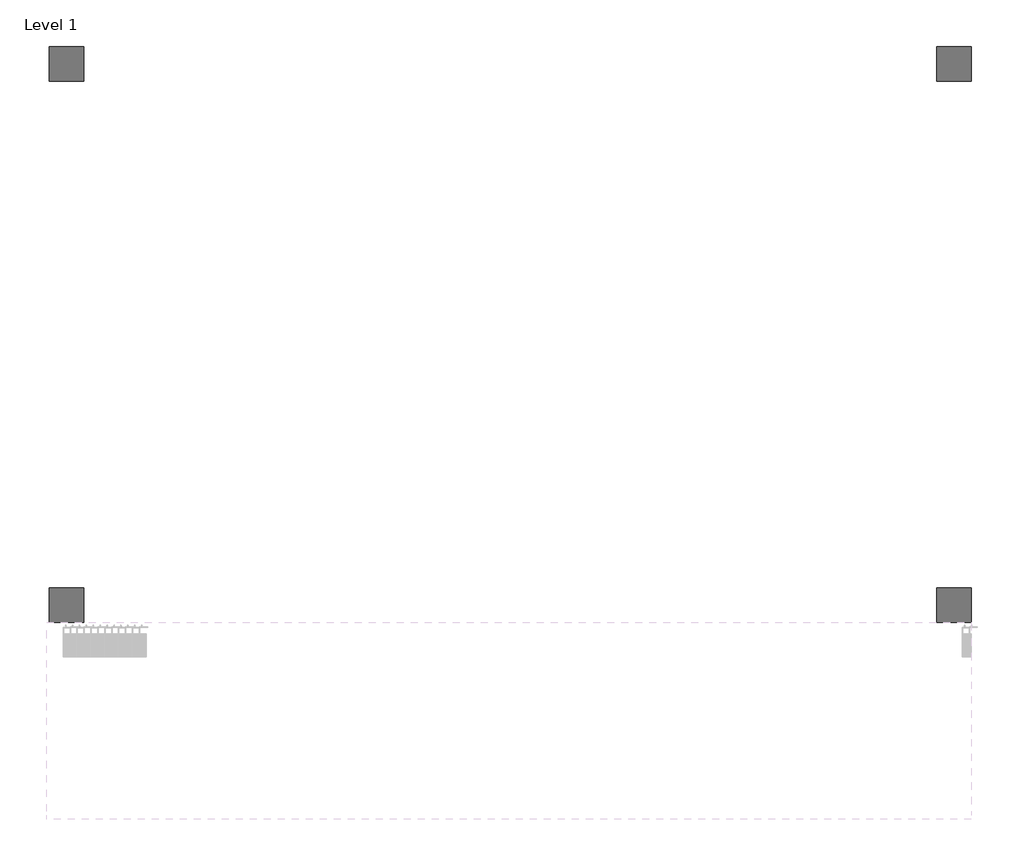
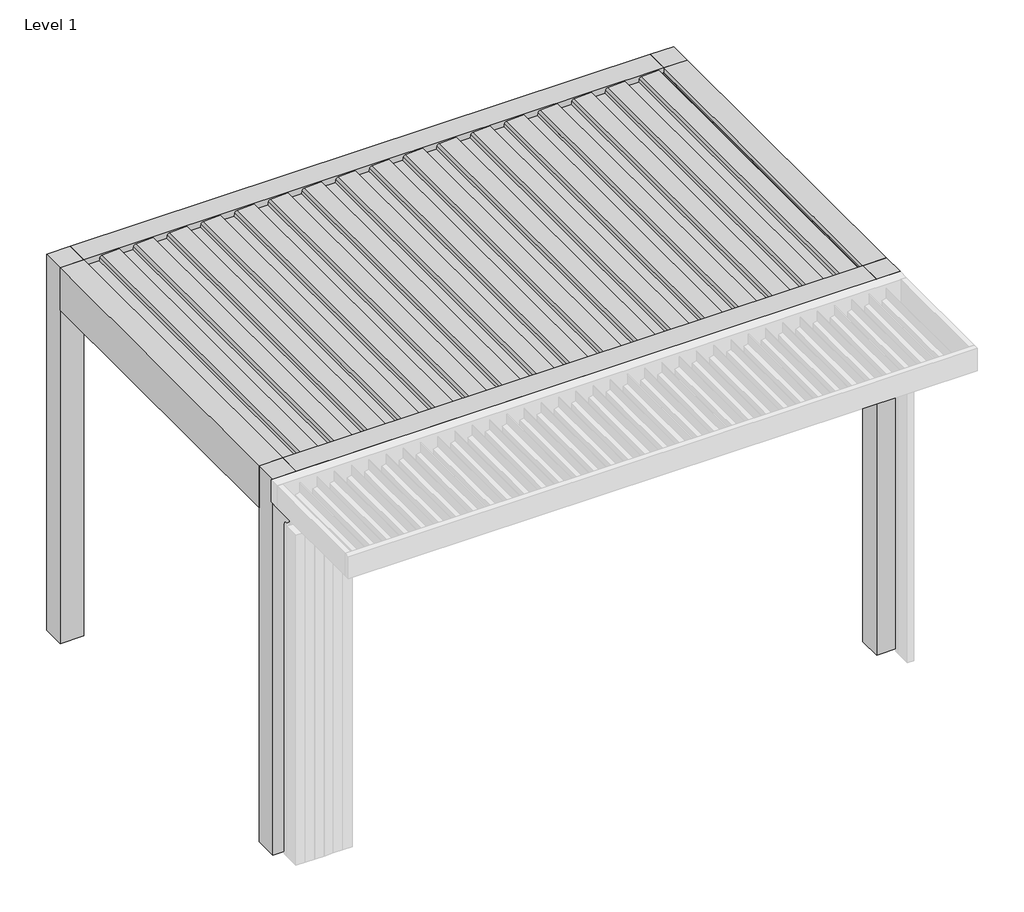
# One storey, part 35 of 80: 1 proxy.
"""IFC4 building model written with IfcOpenShell, lengths in millimetres."""

from ifc_helpers import new_model, si_unit, point, frame, frame_2d, origin, origin_with_axes, place, context, project, spatial, polyline, circle_curve, trimmed, segment, composite_curve, outline, extrude, element, save

model = new_model("IFC4")

# Units and contexts
model_context = context("Model", 3, world=origin())
ifc_project = project(units=[si_unit("LENGTHUNIT", "METRE", prefix="MILLI")], contexts=[model_context])

# Site, building, storey
site = spatial("IfcSite", under=ifc_project)
building = spatial("IfcBuilding", under=site)
storey = spatial("IfcBuildingStorey", under=building, Name="Level 1", Elevation=0.0)

# Proxy
placement = place(None, origin())
element("IfcBuildingElementProxy", 1, Name="Renson_Amani_Patio_Cover : Renson_Amani_Patio_Cover", ObjectType="Renson_Amani_Patio_Cover : Renson_Amani_Patio_Cover", at=placement, inside=storey, context=model_context, shape_type="SweptSolid", body=[
    extrude(outline(polyline([(-18327.8406315, 2535.0), (-18327.8406315, 2322.0), (-18257.8406316, 2322.0), (-18257.8406316, 2250.0), (-18477.8406315, 2250.0), (-18477.8406315, 2535.0), (-18327.8406315, 2535.0)])), frame((402125.5749426, 0.0, 0.0), z_axis=(1.0, 0.0, 0.0), x_axis=(0.0, 1.0, 0.0)), (0.0, 0.0, 1.0), 3700.0),
    extrude(outline(polyline([(-15977.8406315, 2250.0), (-16197.8406314, 2250.0), (-16197.8406314, 2322.0), (-16127.8406315, 2322.0), (-16127.8406315, 2535.0), (-15977.8406315, 2535.0), (-15977.8406315, 2250.0)])), frame((402125.5749426, 0.0, 0.0), z_axis=(1.0, 0.0, 0.0), x_axis=(0.0, 1.0, 0.0)), (0.0, 0.0, 1.0), 3700.0),
    extrude(outline(polyline([(402125.5749426, -18327.8406315), (401975.5749426, -18327.8406315), (401975.5749426, -16127.8406315), (402125.5749426, -16127.8406315), (402125.5749426, -18327.8406315)])), frame((0.0, 0.0, 2250.0), z_axis=(0.0, 0.0, 1.0), x_axis=(1.0, 0.0, 0.0)), (0.0, 0.0, 1.0), 285.0),
    extrude(outline(polyline([(2535.0, 405975.5749426), (2535.0, 405825.5749426), (2504.6904658, 405825.5749426), (2504.2449277, 405820.5749426), (2496.400763, 405820.5749426), (2480.6555802, 405804.8293581), (2480.6555802, 405795.4839749), (2466.6559373, 405799.2352636), (2466.6559373, 405825.5749426), (2250.0, 405825.5749426), (2250.0, 405975.5749426), (2535.0, 405975.5749426)])), frame((0.0, -18327.8406315, 0.0), z_axis=(0.0, 1.0, 0.0), x_axis=(0.0, 0.0, 1.0)), (0.0, 0.0, 1.0), 2200.0),
    extrude(outline(polyline([(2466.6559373, 402125.5749426), (2466.6559373, 402151.5749426), (2480.6555802, 402155.3262313), (2480.6555802, 402145.9808481), (2496.400763, 402130.5749426), (2504.2449277, 402130.5749426), (2504.6823598, 402125.5749426), (2466.6559373, 402125.5749426)])), frame((0.0, -18327.8406315, 0.0), z_axis=(0.0, 1.0, 0.0), x_axis=(0.0, 0.0, 1.0)), (0.0, 0.0, 1.0), 2200.0),
    extrude(outline(polyline([(402125.5749426, -18327.8406315), (402125.5749426, -18477.8406315), (401975.5749426, -18477.8406315), (401975.5749426, -18327.8406315), (402125.5749426, -18327.8406315)])), origin_with_axes(), (0.0, 0.0, 1.0), 2535.0),
    extrude(outline(polyline([(402125.5749426, -16127.8406315), (401975.5749426, -16127.8406315), (401975.5749426, -15977.8406315), (402125.5749426, -15977.8406315), (402125.5749426, -16127.8406315)])), origin_with_axes(), (0.0, 0.0, 1.0), 2535.0),
    extrude(outline(polyline([(405975.5749426, -15977.8406315), (405975.5749426, -16127.8406315), (405825.5749426, -16127.8406315), (405825.5749426, -15977.8406315), (405975.5749426, -15977.8406315)])), origin_with_axes(), (0.0, 0.0, 1.0), 2535.0),
    extrude(outline(polyline([(405975.5749426, -18327.8406315), (405975.5749426, -18477.8406315), (405825.5749426, -18477.8406315), (405825.5749426, -18327.8406315), (405975.5749426, -18327.8406315)])), origin_with_axes(), (0.0, 0.0, 1.0), 2535.0),
    extrude(outline(composite_curve([segment(polyline([(2483.35, 402324.1467059), (2511.01198, 402326.5668156), (2512.3970364, 402355.4020661), (2531.8911096, 402351.964735), (2526.6075693, 402241.9676201)]), True, "CONTINUOUS"), segment(trimmed(circle_curve(frame_2d((2511.6248435, 402242.6872921)), 15.0), [point((2526.6075693, 402241.9676201))], [point((2514.2295662, 402227.9151758))], False, "CARTESIAN"), True, "CONTINUOUS"), segment(polyline([(2514.2295662, 402227.9151758), (2495.0, 402224.5244844), (2495.0, 402136.7887084), (2512.0788237, 402133.777251), (2511.3450182, 402118.5002805), (2483.35, 402116.0510338), (2483.35, 402324.1467059)]), True, "CONTINUOUS")], self_intersect=False)), frame((0.0, -18327.8406315, 0.0), z_axis=(0.0, 1.0, 0.0), x_axis=(0.0, 0.0, 1.0)), (0.0, 0.0, 1.0), 2200.0),
    extrude(outline(composite_curve([segment(polyline([(2483.35, 405764.3195824), (2511.01198, 405766.7396921), (2512.3970364, 405795.5749426), (2531.8911096, 405792.1376115), (2526.6075693, 405682.1404966)]), True, "CONTINUOUS"), segment(trimmed(circle_curve(frame_2d((2511.6248435, 405682.8601686)), 15.0), [point((2526.6075693, 405682.1404966))], [point((2514.2295662, 405668.0880523))], False, "CARTESIAN"), True, "CONTINUOUS"), segment(polyline([(2514.2295662, 405668.0880523), (2495.0, 405664.6973609), (2495.0, 405576.9615849), (2512.0788237, 405573.9501275), (2511.3450182, 405558.673157), (2483.35, 405556.2239103), (2483.35, 405764.3195824)]), True, "CONTINUOUS")], self_intersect=False)), frame((0.0, -18327.8406315, 0.0), z_axis=(0.0, 1.0, 0.0), x_axis=(0.0, 0.0, 1.0)), (0.0, 0.0, 1.0), 2200.0),
    extrude(outline(composite_curve([segment(polyline([(2483.35, 402539.1575107), (2511.01198, 402541.5776204), (2512.3970364, 402570.4128708), (2531.8911096, 402566.9755398), (2526.6075693, 402456.9784249)]), True, "CONTINUOUS"), segment(trimmed(circle_curve(frame_2d((2511.6248435, 402457.6980968)), 15.0), [point((2526.6075693, 402456.9784249))], [point((2514.2295662, 402442.9259805))], False, "CARTESIAN"), True, "CONTINUOUS"), segment(polyline([(2514.2295662, 402442.9259805), (2495.0, 402439.5352892), (2495.0, 402351.7995132), (2512.0788237, 402348.7880558), (2511.3450182, 402333.5110853), (2483.35, 402331.0618386), (2483.35, 402539.1575107)]), True, "CONTINUOUS")], self_intersect=False)), frame((0.0, -18327.8406315, 0.0), z_axis=(0.0, 1.0, 0.0), x_axis=(0.0, 0.0, 1.0)), (0.0, 0.0, 1.0), 2200.0),
    extrude(outline(composite_curve([segment(polyline([(2483.35, 402754.1683155), (2511.01198, 402756.5884252), (2512.3970364, 402785.4236756), (2531.8911096, 402781.9863445), (2526.6075693, 402671.9892297)]), True, "CONTINUOUS"), segment(trimmed(circle_curve(frame_2d((2511.6248435, 402672.7089016)), 15.0), [point((2526.6075693, 402671.9892297))], [point((2514.2295662, 402657.9367853))], False, "CARTESIAN"), True, "CONTINUOUS"), segment(polyline([(2514.2295662, 402657.9367853), (2495.0, 402654.546094), (2495.0, 402566.810318), (2512.0788237, 402563.7988605), (2511.3450182, 402548.5218901), (2483.35, 402546.0726433), (2483.35, 402754.1683155)]), True, "CONTINUOUS")], self_intersect=False)), frame((0.0, -18327.8406315, 0.0), z_axis=(0.0, 1.0, 0.0), x_axis=(0.0, 0.0, 1.0)), (0.0, 0.0, 1.0), 2200.0),
    extrude(outline(composite_curve([segment(polyline([(2483.35, 402969.1791203), (2511.01198, 402971.5992299), (2512.3970364, 403000.4344804), (2531.8911096, 402996.9971493), (2526.6075693, 402887.0000345)]), True, "CONTINUOUS"), segment(trimmed(circle_curve(frame_2d((2511.6248435, 402887.7197064)), 15.0), [point((2526.6075693, 402887.0000345))], [point((2514.2295662, 402872.9475901))], False, "CARTESIAN"), True, "CONTINUOUS"), segment(polyline([(2514.2295662, 402872.9475901), (2495.0, 402869.5568988), (2495.0, 402781.8211227), (2512.0788237, 402778.8096653), (2511.3450182, 402763.5326948), (2483.35, 402761.0834481), (2483.35, 402969.1791203)]), True, "CONTINUOUS")], self_intersect=False)), frame((0.0, -18327.8406315, 0.0), z_axis=(0.0, 1.0, 0.0), x_axis=(0.0, 0.0, 1.0)), (0.0, 0.0, 1.0), 2200.0),
    extrude(outline(composite_curve([segment(polyline([(2483.35, 403184.1899251), (2511.01198, 403186.6100347), (2512.3970364, 403215.4452852), (2531.8911096, 403212.0079541), (2526.6075693, 403102.0108393)]), True, "CONTINUOUS"), segment(trimmed(circle_curve(frame_2d((2511.6248435, 403102.7305112)), 15.0), [point((2526.6075693, 403102.0108393))], [point((2514.2295662, 403087.9583949))], False, "CARTESIAN"), True, "CONTINUOUS"), segment(polyline([(2514.2295662, 403087.9583949), (2495.0, 403084.5677035), (2495.0, 402996.8319275), (2512.0788237, 402993.8204701), (2511.3450182, 402978.5434996), (2483.35, 402976.0942529), (2483.35, 403184.1899251)]), True, "CONTINUOUS")], self_intersect=False)), frame((0.0, -18327.8406315, 0.0), z_axis=(0.0, 1.0, 0.0), x_axis=(0.0, 0.0, 1.0)), (0.0, 0.0, 1.0), 2200.0),
    extrude(outline(composite_curve([segment(polyline([(2483.35, 403399.2007298), (2511.01198, 403401.6208395), (2512.3970364, 403430.45609), (2531.8911096, 403427.0187589), (2526.6075693, 403317.021644)]), True, "CONTINUOUS"), segment(trimmed(circle_curve(frame_2d((2511.6248435, 403317.741316)), 15.0), [point((2526.6075693, 403317.021644))], [point((2514.2295662, 403302.9691997))], False, "CARTESIAN"), True, "CONTINUOUS"), segment(polyline([(2514.2295662, 403302.9691997), (2495.0, 403299.5785083), (2495.0, 403211.8427323), (2512.0788237, 403208.8312749), (2511.3450182, 403193.5543044), (2483.35, 403191.1050577), (2483.35, 403399.2007298)]), True, "CONTINUOUS")], self_intersect=False)), frame((0.0, -18327.8406315, 0.0), z_axis=(0.0, 1.0, 0.0), x_axis=(0.0, 0.0, 1.0)), (0.0, 0.0, 1.0), 2200.0),
    extrude(outline(composite_curve([segment(polyline([(2483.35, 403614.2115346), (2511.01198, 403616.6316443), (2512.3970364, 403645.4668947), (2531.8911096, 403642.0295637), (2526.6075693, 403532.0324488)]), True, "CONTINUOUS"), segment(trimmed(circle_curve(frame_2d((2511.6248435, 403532.7521207)), 15.0), [point((2526.6075693, 403532.0324488))], [point((2514.2295662, 403517.9800045))], False, "CARTESIAN"), True, "CONTINUOUS"), segment(polyline([(2514.2295662, 403517.9800045), (2495.0, 403514.5893131), (2495.0, 403426.8535371), (2512.0788237, 403423.8420797), (2511.3450182, 403408.5651092), (2483.35, 403406.1158625), (2483.35, 403614.2115346)]), True, "CONTINUOUS")], self_intersect=False)), frame((0.0, -18327.8406315, 0.0), z_axis=(0.0, 1.0, 0.0), x_axis=(0.0, 0.0, 1.0)), (0.0, 0.0, 1.0), 2200.0),
    extrude(outline(composite_curve([segment(polyline([(2483.35, 403829.2223394), (2511.01198, 403831.6424491), (2512.3970364, 403860.4776995), (2531.8911096, 403857.0403684), (2526.6075693, 403747.0432536)]), True, "CONTINUOUS"), segment(trimmed(circle_curve(frame_2d((2511.6248435, 403747.7629255)), 15.0), [point((2526.6075693, 403747.0432536))], [point((2514.2295662, 403732.9908092))], False, "CARTESIAN"), True, "CONTINUOUS"), segment(polyline([(2514.2295662, 403732.9908092), (2495.0, 403729.6001179), (2495.0, 403641.8643419), (2512.0788237, 403638.8528844), (2511.3450182, 403623.575914), (2483.35, 403621.1266672), (2483.35, 403829.2223394)]), True, "CONTINUOUS")], self_intersect=False)), frame((0.0, -18327.8406315, 0.0), z_axis=(0.0, 1.0, 0.0), x_axis=(0.0, 0.0, 1.0)), (0.0, 0.0, 1.0), 2200.0),
    extrude(outline(composite_curve([segment(polyline([(2483.35, 404044.2331442), (2511.01198, 404046.6532538), (2512.3970364, 404075.4885043), (2531.8911096, 404072.0511732), (2526.6075693, 403962.0540584)]), True, "CONTINUOUS"), segment(trimmed(circle_curve(frame_2d((2511.6248435, 403962.7737303)), 15.0), [point((2526.6075693, 403962.0540584))], [point((2514.2295662, 403948.001614))], False, "CARTESIAN"), True, "CONTINUOUS"), segment(polyline([(2514.2295662, 403948.001614), (2495.0, 403944.6109227), (2495.0, 403856.8751466), (2512.0788237, 403853.8636892), (2511.3450182, 403838.5867188), (2483.35, 403836.137472), (2483.35, 404044.2331442)]), True, "CONTINUOUS")], self_intersect=False)), frame((0.0, -18327.8406315, 0.0), z_axis=(0.0, 1.0, 0.0), x_axis=(0.0, 0.0, 1.0)), (0.0, 0.0, 1.0), 2200.0),
    extrude(outline(composite_curve([segment(polyline([(2483.35, 404259.243949), (2511.01198, 404261.6640586), (2512.3970364, 404290.4993091), (2531.8911096, 404287.061978), (2526.6075693, 404177.0648632)]), True, "CONTINUOUS"), segment(trimmed(circle_curve(frame_2d((2511.6248435, 404177.7845351)), 15.0), [point((2526.6075693, 404177.0648632))], [point((2514.2295662, 404163.0124188))], False, "CARTESIAN"), True, "CONTINUOUS"), segment(polyline([(2514.2295662, 404163.0124188), (2495.0, 404159.6217275), (2495.0, 404071.8859514), (2512.0788237, 404068.874494), (2511.3450182, 404053.5975235), (2483.35, 404051.1482768), (2483.35, 404259.243949)]), True, "CONTINUOUS")], self_intersect=False)), frame((0.0, -18327.8406315, 0.0), z_axis=(0.0, 1.0, 0.0), x_axis=(0.0, 0.0, 1.0)), (0.0, 0.0, 1.0), 2200.0),
    extrude(outline(composite_curve([segment(polyline([(2483.35, 404474.2547538), (2511.01198, 404476.6748634), (2512.3970364, 404505.5101139), (2531.8911096, 404502.0727828), (2526.6075693, 404392.0756679)]), True, "CONTINUOUS"), segment(trimmed(circle_curve(frame_2d((2511.6248435, 404392.7953399)), 15.0), [point((2526.6075693, 404392.0756679))], [point((2514.2295662, 404378.0232236))], False, "CARTESIAN"), True, "CONTINUOUS"), segment(polyline([(2514.2295662, 404378.0232236), (2495.0, 404374.6325322), (2495.0, 404286.8967562), (2512.0788237, 404283.8852988), (2511.3450182, 404268.6083283), (2483.35, 404266.1590816), (2483.35, 404474.2547538)]), True, "CONTINUOUS")], self_intersect=False)), frame((0.0, -18327.8406315, 0.0), z_axis=(0.0, 1.0, 0.0), x_axis=(0.0, 0.0, 1.0)), (0.0, 0.0, 1.0), 2200.0),
    extrude(outline(composite_curve([segment(polyline([(2483.35, 404689.2655585), (2511.01198, 404691.6856682), (2512.3970364, 404720.5209187), (2531.8911096, 404717.0835876), (2526.6075693, 404607.0864727)]), True, "CONTINUOUS"), segment(trimmed(circle_curve(frame_2d((2511.6248435, 404607.8061447)), 15.0), [point((2526.6075693, 404607.0864727))], [point((2514.2295662, 404593.0340284))], False, "CARTESIAN"), True, "CONTINUOUS"), segment(polyline([(2514.2295662, 404593.0340284), (2495.0, 404589.643337), (2495.0, 404501.907561), (2512.0788237, 404498.8961036), (2511.3450182, 404483.6191331), (2483.35, 404481.1698864), (2483.35, 404689.2655585)]), True, "CONTINUOUS")], self_intersect=False)), frame((0.0, -18327.8406315, 0.0), z_axis=(0.0, 1.0, 0.0), x_axis=(0.0, 0.0, 1.0)), (0.0, 0.0, 1.0), 2200.0),
    extrude(outline(composite_curve([segment(polyline([(2483.35, 404904.2763633), (2511.01198, 404906.696473), (2512.3970364, 404935.5317234), (2531.8911096, 404932.0943924), (2526.6075693, 404822.0972775)]), True, "CONTINUOUS"), segment(trimmed(circle_curve(frame_2d((2511.6248435, 404822.8169494)), 15.0), [point((2526.6075693, 404822.0972775))], [point((2514.2295662, 404808.0448331))], False, "CARTESIAN"), True, "CONTINUOUS"), segment(polyline([(2514.2295662, 404808.0448331), (2495.0, 404804.6541418), (2495.0, 404716.9183658), (2512.0788237, 404713.9069084), (2511.3450182, 404698.6299379), (2483.35, 404696.1806912), (2483.35, 404904.2763633)]), True, "CONTINUOUS")], self_intersect=False)), frame((0.0, -18327.8406315, 0.0), z_axis=(0.0, 1.0, 0.0), x_axis=(0.0, 0.0, 1.0)), (0.0, 0.0, 1.0), 2200.0),
    extrude(outline(composite_curve([segment(polyline([(2483.35, 405119.2871681), (2511.01198, 405121.7072778), (2512.3970364, 405150.5425282), (2531.8911096, 405147.1051971), (2526.6075693, 405037.1080823)]), True, "CONTINUOUS"), segment(trimmed(circle_curve(frame_2d((2511.6248435, 405037.8277542)), 15.0), [point((2526.6075693, 405037.1080823))], [point((2514.2295662, 405023.0556379))], False, "CARTESIAN"), True, "CONTINUOUS"), segment(polyline([(2514.2295662, 405023.0556379), (2495.0, 405019.6649466), (2495.0, 404931.9291706), (2512.0788237, 404928.9177131), (2511.3450182, 404913.6407427), (2483.35, 404911.1914959), (2483.35, 405119.2871681)]), True, "CONTINUOUS")], self_intersect=False)), frame((0.0, -18327.8406315, 0.0), z_axis=(0.0, 1.0, 0.0), x_axis=(0.0, 0.0, 1.0)), (0.0, 0.0, 1.0), 2200.0),
    extrude(outline(composite_curve([segment(polyline([(2483.35, 405334.2979729), (2511.01198, 405336.7180825), (2512.3970364, 405365.553333), (2531.8911096, 405362.1160019), (2526.6075693, 405252.1188871)]), True, "CONTINUOUS"), segment(trimmed(circle_curve(frame_2d((2511.6248435, 405252.838559)), 15.0), [point((2526.6075693, 405252.1188871))], [point((2514.2295662, 405238.0664427))], False, "CARTESIAN"), True, "CONTINUOUS"), segment(polyline([(2514.2295662, 405238.0664427), (2495.0, 405234.6757514), (2495.0, 405146.9399753), (2512.0788237, 405143.9285179), (2511.3450182, 405128.6515474), (2483.35, 405126.2023007), (2483.35, 405334.2979729)]), True, "CONTINUOUS")], self_intersect=False)), frame((0.0, -18327.8406315, 0.0), z_axis=(0.0, 1.0, 0.0), x_axis=(0.0, 0.0, 1.0)), (0.0, 0.0, 1.0), 2200.0),
    extrude(outline(composite_curve([segment(polyline([(2483.35, 405549.3087777), (2511.01198, 405551.7288873), (2512.3970364, 405580.5641378), (2531.8911096, 405577.1268067), (2526.6075693, 405467.1296919)]), True, "CONTINUOUS"), segment(trimmed(circle_curve(frame_2d((2511.6248435, 405467.8493638)), 15.0), [point((2526.6075693, 405467.1296919))], [point((2514.2295662, 405453.0772475))], False, "CARTESIAN"), True, "CONTINUOUS"), segment(polyline([(2514.2295662, 405453.0772475), (2495.0, 405449.6865561), (2495.0, 405361.9507801), (2512.0788237, 405358.9393227), (2511.3450182, 405343.6623522), (2483.35, 405341.2131055), (2483.35, 405549.3087777)]), True, "CONTINUOUS")], self_intersect=False)), frame((0.0, -18327.8406315, 0.0), z_axis=(0.0, 1.0, 0.0), x_axis=(0.0, 0.0, 1.0)), (0.0, 0.0, 1.0), 2200.0),
])

save(model, "model.ifc")
